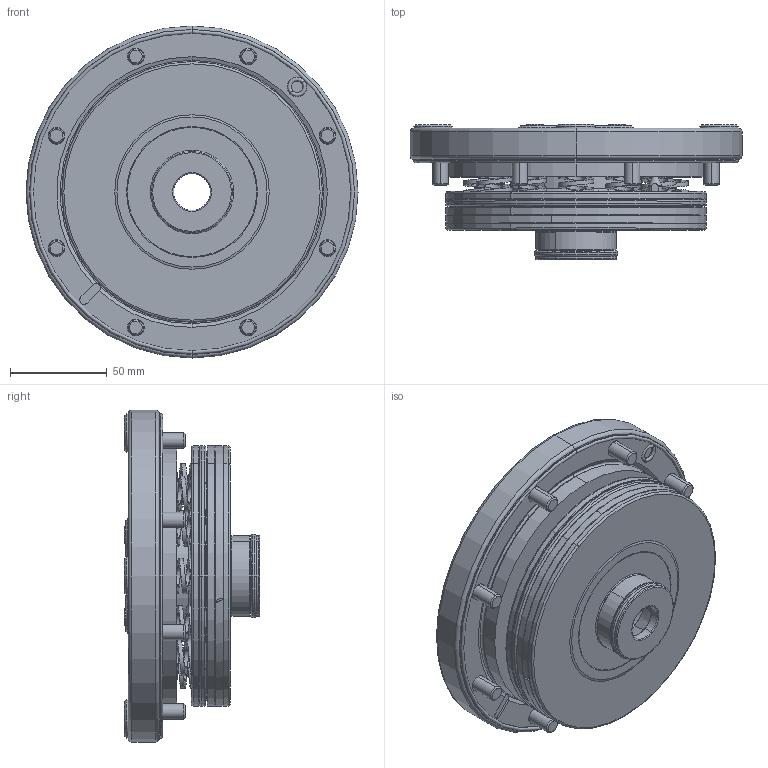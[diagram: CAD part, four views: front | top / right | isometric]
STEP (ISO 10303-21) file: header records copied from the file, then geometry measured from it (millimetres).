
FILE_DESCRIPTION (( 'STEP AP214' ), '1' );
FILE_NAME ('LQNCZ-40S-三维模型.STEP', '2021-01-28T07:20:08', ( 'Dell' ), ( 'Dell' ), 'SwSTEP 2.0', 'SolidWorks 2018', '' );
FILE_SCHEMA (( 'AUTOMOTIVE_DESIGN' ));
Length unit declared in the file: millimetre
Products named in the file (1): LQNCZ-40S-三维模型
Bounding box: 172 x 70 x 172 mm (x, y, z)
Volume: 1572516.4 mm3; surface area: 263061.7 mm2
Topology: 14 solids, 16 shells, 1492 faces, 3490 edges, 2106 vertices
Faces by surface type: cylinder 416, plane 342, cone 272, torus 256, bspline 142, sphere 64
Entity records: 129397 total; most frequent: CARTESIAN_POINT 96099, DIRECTION 7122, ORIENTED_EDGE 6820, EDGE_CURVE 3410, AXIS2_PLACEMENT_3D 3021, VERTEX_POINT 2090, EDGE_LOOP 1716, CIRCLE 1670
